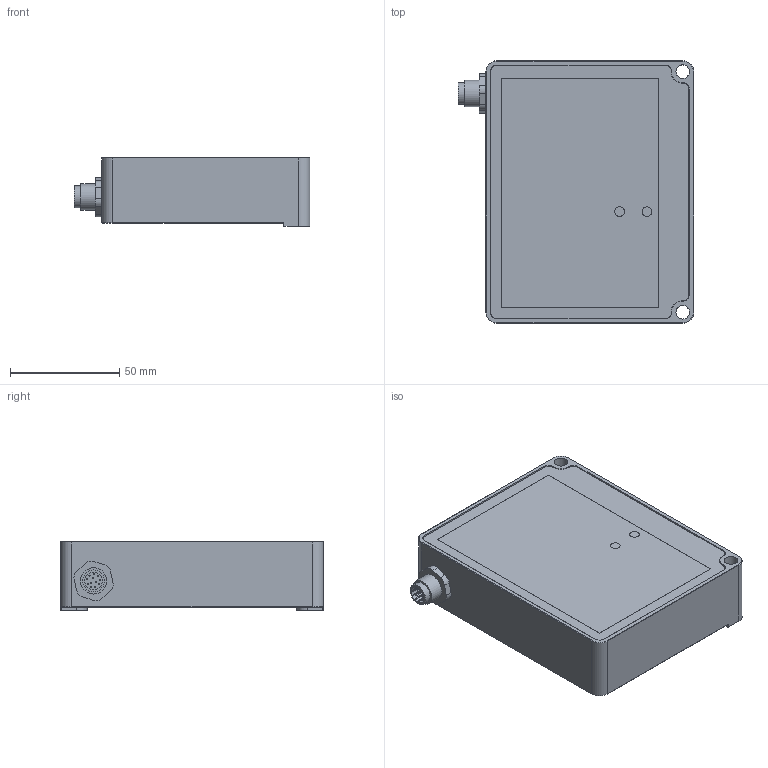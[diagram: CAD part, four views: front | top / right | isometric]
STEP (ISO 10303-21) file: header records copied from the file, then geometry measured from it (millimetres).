
FILE_DESCRIPTION((''),'2;1');
FILE_NAME('Z:\udvikling\Inventor Tegninger\Produktions Tegninger\8000 NEW BLACKLINE\Step Files\Step Files for Homepage\Step Files for Long Range 3D\Step File Black-Line Long Range 3D DSE.stp','2017-03-24T01:28:22',('Peter'),(''),'Autodesk Inventor 2008','Autodesk Inventor 2008','');
FILE_SCHEMA(('AUTOMOTIVE_DESIGN { 1 0 10303 214 1 1 1 1 }'));
Length unit declared in the file: millimetre
Products named in the file (7): Assembly Step File Black-Line Long Range 3D DSE; M12 12pol Connector; 7004-01 Greyline Frontglas Ø18; 8000-03 House_LongRange; 8001-01 Låg uden flap; Frontglas Laser; LABEL Black-Line DSE
Assembly tree (6 placements, depth 2):
  Assembly Step File Black-Line Long Range 3D DSE
    M12 12pol Connector
    7004-01 Greyline Frontglas Ø18
    8000-03 House_LongRange
    8001-01 Låg uden flap
    Frontglas Laser
    LABEL Black-Line DSE
Bounding box: 107.6 x 120 x 31.5 mm (x, y, z)
Volume: 88231.5 mm3; surface area: 86474.5 mm2
Topology: 6 solids, 6 shells, 250 faces, 641 edges, 422 vertices
Faces by surface type: plane 125, cylinder 106, bspline 13, cone 6
Full cylindrical faces by diameter (mm): 0.5 x12, 6.2 x2, 7 x2, 8 x1, 10 x1, 11.8 x1, 12 x2, 13.778 x1, 16 x1, 18 x1
Entity records: 7849 total; most frequent: CARTESIAN_POINT 1506, DIRECTION 1341, ORIENTED_EDGE 1192, EDGE_CURVE 596, AXIS2_PLACEMENT_3D 497, VERTEX_POINT 410, VECTOR 347, LINE 347
